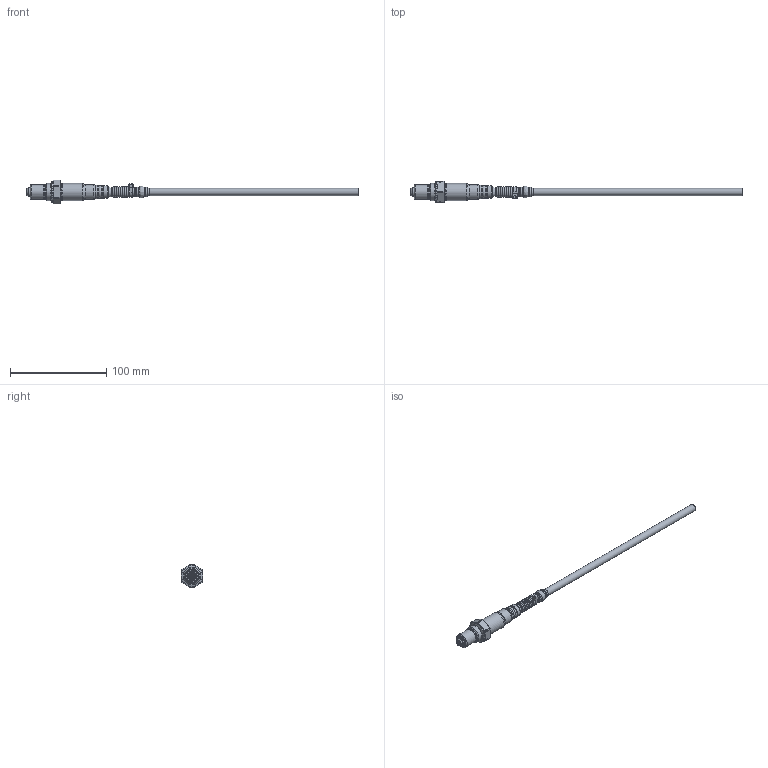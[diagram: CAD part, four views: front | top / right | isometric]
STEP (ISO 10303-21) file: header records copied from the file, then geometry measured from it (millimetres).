
FILE_DESCRIPTION(/* description */ (''),/* implementation_level */ '2;1');
FILE_NAME(/* name */ '0258027052-MU.001-OXYGEN SENSOR.stp',/* time_stamp */ '2020-05-12T11:57:28+02:00',/* author */ (''),/* organization */ (''),/* preprocessor_version */ 'ST-DEVELOPER v16.7',/* originating_system */ 'SIEMENS PLM Software NX 1892',/* authorisation */ '');
FILE_SCHEMA (('AUTOMOTIVE_DESIGN { 1 0 10303 214 3 1 1 1 }'));
Length unit declared in the file: millimetre
Products named in the file (1): deg24680F84B7q76
Bounding box: 344.75 x 22.6 x 24.7 mm (x, y, z)
Volume: 31663.9 mm3; surface area: 13327.7 mm2
Topology: 4 solids, 4 shells, 215 faces, 499 edges, 329 vertices
Faces by surface type: plane 67, cylinder 60, torus 54, cone 29, sphere 4, bspline 1
Full cylindrical faces by diameter (mm): 1.4 x12, 2.2 x1, 7.6 x1, 8.5 x1, 9.1 x1, 9.13 x1, 9.3 x1, 10.1 x2, 12.8 x2, 13.3 x1, 15 x2, 15.3 x1, 17.71 x2, 17.732 x1, 17.91 x1, 22.6 x1
Entity records: 7733 total; most frequent: CARTESIAN_POINT 1874, DIRECTION 925, ORIENTED_EDGE 764, AXIS2_PLACEMENT_3D 412, EDGE_CURVE 382, EDGE_LOOP 335, VERTEX_POINT 295, FACE_BOUND 224
